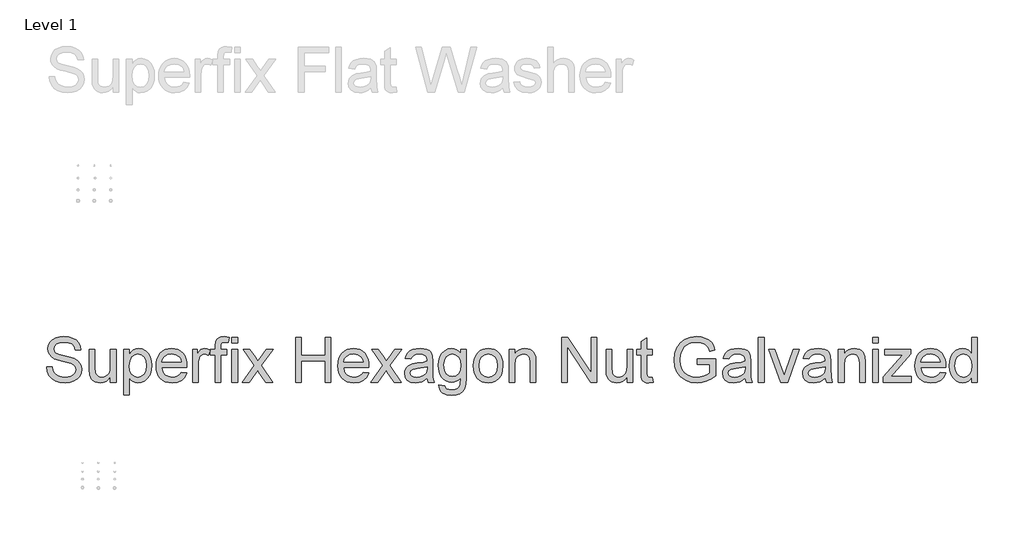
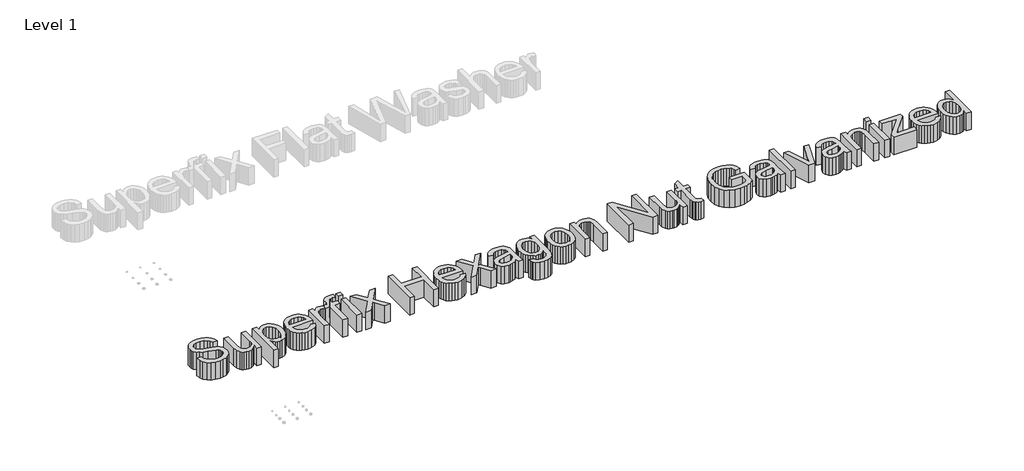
# One storey, part 17 of 32: 1 proxy.
"""IFC4 building model written with IfcOpenShell, lengths in millimetres."""

import ifcopenshell
import ifcopenshell.guid

model = None  # the IFC model being written
_history = None  # IfcOwnerHistory: only IFC2X3 demands one
_inside = {}  # id of a spatial element -> (the spatial element, [elements in it])
_under = {}  # id of a project, library or spatial element -> (it, [spatial elements below it])
_declared = {}  # id of a project -> (the project, [libraries it declares])
_typed = {}  # id of a type object -> (the type object, [elements of that type])
_made_of = {}  # id of a material, layer set ... -> (it, [elements and type objects made of it])


def new_model(schema):
    """Start an empty IFC model of exactly this schema.

    Asked for "IFC4X3", IfcOpenShell would pick the latest addendum, in which some entities
    have other attributes; the version numbers below select the first issue.
    IFC2X3 requires an IfcOwnerHistory on every rooted entity: one is made here for all.
    """
    global model, _history
    if schema == "IFC4X3":
        model = ifcopenshell.file(schema_version=(4, 3, 0, 0))
    else:
        model = ifcopenshell.file(schema=schema)
    _inside.clear()
    _under.clear()
    _declared.clear()
    _typed.clear()
    _made_of.clear()
    _history = None
    if model.schema == "IFC2X3":
        org = make("IfcOrganization", Name="unknown")
        user = make(
            "IfcPersonAndOrganization",
            ThePerson=make("IfcPerson", FamilyName="unknown"),
            TheOrganization=org,
        )
        app = make(
            "IfcApplication",
            ApplicationDeveloper=org,
            Version="unknown",
            ApplicationFullName="unknown",
            ApplicationIdentifier="unknown",
        )
        _history = make(
            "IfcOwnerHistory",
            OwningUser=user,
            OwningApplication=app,
            ChangeAction="ADDED",
            CreationDate=0,
        )
    return model


def make(cls, **values):
    """One entity of the class cls with the attributes given. An attribute that is None is left unset."""
    return model.create_entity(
        cls, **{name: value for name, value in values.items() if value is not None}
    )


def rooted(cls, **values):
    """An entity with a GlobalId (a new one), such as an element, a storey or a relation."""
    return make(cls, GlobalId=ifcopenshell.guid.new(), OwnerHistory=_history, **values)


def si_unit(unit_type, name, prefix=None):
    """IfcSIUnit, for example si_unit("LENGTHUNIT", "METRE", prefix="MILLI")."""
    return make("IfcSIUnit", UnitType=unit_type, Prefix=prefix, Name=name)


def assignment(units):
    """IfcUnitAssignment: the units of a project."""
    return None if units is None else make("IfcUnitAssignment", Units=units)


def point(xyz):
    """IfcCartesianPoint."""
    return None if xyz is None else make("IfcCartesianPoint", Coordinates=xyz)


def direction(xyz):
    """IfcDirection."""
    return None if xyz is None else make("IfcDirection", DirectionRatios=xyz)


def frame(location, z_axis=None, x_axis=None):
    """IfcAxis2Placement3D, a coordinate frame: its origin and axes. An axis left out is left unset."""
    return make(
        "IfcAxis2Placement3D",
        Location=point(location),
        Axis=direction(z_axis),
        RefDirection=direction(x_axis),
    )


def origin():
    """The frame at (0, 0, 0) with its axes left unset."""
    return frame((0.0, 0.0, 0.0))


def origin_with_axes():
    """The frame at (0, 0, 0) with the z axis (0, 0, 1) and the x axis (1, 0, 0) written out."""
    return frame((0.0, 0.0, 0.0), z_axis=(0.0, 0.0, 1.0), x_axis=(1.0, 0.0, 0.0))


def place(relative_to, where):
    """IfcLocalPlacement: puts the frame where relative to a parent placement (None: the world)."""
    return make(
        "IfcLocalPlacement", PlacementRelTo=relative_to, RelativePlacement=where
    )


def context(
    kind, dimensions, precision=None, world=None, true_north=None, identifier=None
):
    """IfcGeometricRepresentationContext, for example the 3D "Model" context."""
    return make(
        "IfcGeometricRepresentationContext",
        ContextIdentifier=identifier,
        ContextType=kind,
        CoordinateSpaceDimension=dimensions,
        Precision=precision,
        WorldCoordinateSystem=world,
        TrueNorth=true_north,
    )


def project(units=None, contexts=None):
    """IfcProject with its units and contexts."""
    return rooted(
        "IfcProject",
        Name="project",
        RepresentationContexts=contexts,
        UnitsInContext=assignment(units),
    )


def spatial(cls, under=None, at=None, **own):
    """A site, building, storey or space (cls), placed at a placement, below another one or the project."""
    s = rooted(cls, ObjectPlacement=at, **own)
    if under is not None:
        _under.setdefault(under.id(), (under, []))[1].append(s)
    return s


def polyline(points):
    """IfcPolyline through the points."""
    return make("IfcPolyline", Points=[point(p) for p in points])


def outline(outer, holes=None, kind="AREA"):
    """IfcArbitraryClosedProfileDef: a profile drawn as a closed curve; with holes, ...WithVoids."""
    if holes is None:
        return make("IfcArbitraryClosedProfileDef", ProfileType=kind, OuterCurve=outer)
    return make(
        "IfcArbitraryProfileDefWithVoids",
        ProfileType=kind,
        OuterCurve=outer,
        InnerCurves=holes,
    )


def extrude(swept, where, along, depth):
    """IfcExtrudedAreaSolid: the profile swept, set in the frame where, extruded along a direction by depth."""
    return make(
        "IfcExtrudedAreaSolid",
        SweptArea=swept,
        Position=where,
        ExtrudedDirection=direction(along),
        Depth=depth,
    )


def shape(context_of_items, identifier, shape_type, items):
    """IfcShapeRepresentation: the items that make up one representation, for example the "Body"."""
    return make(
        "IfcShapeRepresentation",
        ContextOfItems=context_of_items,
        RepresentationIdentifier=identifier,
        RepresentationType=shape_type,
        Items=items,
    )


def made_of(thing, what):
    """Note that an element or type object is made of a material, layer set ...; save() writes the relation."""
    if what is not None:
        _made_of.setdefault(what.id(), (what, []))[1].append(thing)
    return thing


def element(
    cls,
    number,
    at=None,
    inside=None,
    cuts=None,
    type_object=None,
    material=None,
    context=None,
    identifier="Body",
    shape_type=None,
    held_by="IfcProductDefinitionShape",
    body=None,
    shapes=None,
    **own,
):
    """One element of the class cls, such as IfcWall. Its Tag is "e" and its number.

    at: its placement. inside: the storey or other place that contains it. cuts: it is an
    opening in that element (IfcRelVoidsElement). A single representation is given by context,
    identifier, shape_type and body (its items); several are given by shapes. held_by: the class
    of the entity that holds the representations. save() writes the other relations.
    """
    e = rooted(cls, Tag="e%d" % number, ObjectPlacement=at, **own)
    if body is not None:
        shapes = [shape(context, identifier, shape_type, body)]
    if shapes is not None:
        e.Representation = make(held_by, Representations=shapes)
    if inside is not None:
        _inside.setdefault(inside.id(), (inside, []))[1].append(e)
    if cuts is not None:
        rooted(
            "IfcRelVoidsElement", RelatingBuildingElement=cuts, RelatedOpeningElement=e
        )
    if type_object is not None:
        _typed.setdefault(type_object.id(), (type_object, []))[1].append(e)
    return made_of(e, material)


def aggregate(whole, parts):
    """IfcRelAggregates: a whole, such as a stair, and the parts it consists of."""
    return rooted("IfcRelAggregates", RelatingObject=whole, RelatedObjects=parts)


def save(model, path):
    """Write the relations noted so far, then the file.

    IfcRelAggregates (storeys below a building ...), IfcRelContainedInSpatialStructure (elements
    in a storey), IfcRelDefinesByType, IfcRelAssociatesMaterial and IfcRelDeclares: one each for
    every whole, place, type object, material and project.
    """
    for whole, parts in _under.values():
        aggregate(whole, parts)
    for where, things in _inside.values():
        rooted(
            "IfcRelContainedInSpatialStructure",
            RelatedElements=things,
            RelatingStructure=where,
        )
    for kind, things in _typed.values():
        rooted("IfcRelDefinesByType", RelatedObjects=things, RelatingType=kind)
    for what, things in _made_of.values():
        rooted("IfcRelAssociatesMaterial", RelatedObjects=things, RelatingMaterial=what)
    for by, libraries in _declared.values():
        rooted("IfcRelDeclares", RelatingContext=by, RelatedDefinitions=libraries)
    model.write(path)


model = new_model("IFC4")

# Units and contexts
model_context = context("Model", 3, world=origin())
ifc_project = project(units=[si_unit("LENGTHUNIT", "METRE", prefix="MILLI")], contexts=[model_context])

# Site, building, storey
site = spatial("IfcSite", under=ifc_project)
building = spatial("IfcBuilding", under=site)
storey = spatial("IfcBuildingStorey", under=building, Name="Level 1", Elevation=0.0)

# Proxy
placement = place(None, origin())
element("IfcBuildingElementProxy", 1, Name="300mm Arial 2", ObjectType="300mm Arial 2", at=placement, inside=storey, context=model_context, shape_type="SweptSolid", body=[
    extrude(outline(polyline([(-40582.2677114, 10602.9664864), (-40544.5965951, 10602.9664864), (-40540.2739817, 10582.061592), (-40532.4564893, 10565.2585819), (-40520.2612011, 10551.9228596), (-40502.8052004, 10541.4198286), (-40481.4680447, 10534.6048147), (-40457.6292914, 10532.3331433), (-40436.6416236, 10534.0529917), (-40418.265918, 10539.2125366), (-40403.3758942, 10547.3795169), (-40392.8452721, 10558.1216712), (-40386.5820811, 10570.4549151), (-40384.4943508, 10583.3951643), (-40386.0578493, 10596.0043196), (-40390.7483447, 10606.9028238), (-40400.2764884, 10616.2010412), (-40416.3529316, 10624.0093365), (-40471.2041371, 10638.3935225), (-40507.2105873, 10647.9124692), (-40530.2491973, 10656.9715633), (-40549.001982, 10669.645098), (-40562.2917191, 10685.0041713), (-40570.210379, 10702.7176894), (-40572.8499323, 10722.4545584), (-40569.5849796, 10744.5182811), (-40559.7901215, 10765.0920817), (-40543.7228754, 10782.5296882), (-40521.6407586, 10795.1848289), (-40495.1348609, 10802.8827596), (-40465.7962717, 10805.4487365), (-40434.0112674, 10802.763198), (-40406.1993885, 10794.7065823), (-40383.3539166, 10781.4444364), (-40366.468133, 10763.1423071), (-40355.7811611, 10740.9406287), (-40351.532124, 10715.9798353), (-40389.2032403, 10715.9798353), (-40396.1194218, 10738.4574252), (-40410.5403961, 10754.6810212), (-40433.0731683, 10764.5034705), (-40464.3247438, 10767.7776202), (-40496.3120832, 10764.5402587), (-40518.2562442, 10754.828174), (-40530.9481731, 10740.5359585), (-40535.178816, 10723.5582044), (-40532.1805778, 10709.0820479), (-40523.185863, 10697.4385828), (-40501.9222837, 10687.0275223), (-40461.6759934, 10676.3957326), (-40420.1421161, 10666.2973719), (-40395.0157759, 10657.4865981), (-40373.5406644, 10643.819782), (-40358.5586701, 10626.9523925), (-40349.7570934, 10607.0683707), (-40346.8232345, 10584.3516574), (-40350.1985518, 10561.1291065), (-40360.3245037, 10539.286113), (-40376.787223, 10520.4873431), (-40399.1728424, 10506.3974627), (-40426.0926074, 10497.5958859), (-40456.1577635, 10494.662027), (-40493.0655246, 10497.8258122), (-40523.4433804, 10507.3171677), (-40547.6408186, 10523.1728817), (-40566.0073272, 10545.4297424), (-40577.7979452, 10572.5426454), (-40582.2677114, 10602.9664864)])), origin_with_axes(), (0.0, 0.0, 1.0), 150.0),
    extrude(outline(polyline([(-40153.7587634, 10499.3709166), (-40153.7587634, 10537.4099149), (-40167.3887913, 10518.7077139), (-40183.2628994, 10505.348999), (-40201.3810877, 10497.33377), (-40221.7433561, 10494.662027), (-40240.0914706, 10496.5382252), (-40257.1703923, 10502.1668197), (-40271.499396, 10510.6281056), (-40281.5977568, 10521.0023779), (-40292.8181576, 10548.7406803), (-40295.0254496, 10583.7630463), (-40295.0254496, 10720.6887249), (-40257.3543333, 10720.6887249), (-40257.3543333, 10601.4949584), (-40255.0734649, 10563.0880781), (-40249.5828261, 10550.2765876), (-40240.1742441, 10540.5369118), (-40227.4731182, 10534.3840855), (-40212.1048479, 10532.3331433), (-40195.8536607, 10534.4300707), (-40180.6509373, 10540.7208528), (-40168.1153583, 10550.6260755), (-40159.8656045, 10563.5663247), (-40155.2854737, 10581.2890398), (-40153.7587634, 10605.5416604), (-40153.7587634, 10720.6887249), (-40116.0876471, 10720.6887249), (-40116.0876471, 10499.3709166), (-40153.7587634, 10499.3709166)])), origin_with_axes(), (0.0, 0.0, 1.0), 150.0),
    extrude(outline(polyline([(-40064.2898622, 10414.6109049), (-40064.2898622, 10720.6887249), (-40026.6187459, 10720.6887249), (-40026.6187459, 10683.7533725), (-40014.3314873, 10701.9727284), (-40000.5727006, 10714.9865539), (-39984.5330456, 10722.7948493), (-39965.4031819, 10725.3976144), (-39939.9273537, 10721.7555826), (-39917.6520989, 10710.8294874), (-39899.5155166, 10693.2815162), (-39886.4557057, 10669.7738567), (-39878.5646369, 10642.0171602), (-39875.9342807, 10611.7220779), (-39878.9049278, 10579.5048122), (-39887.8168691, 10550.6904549), (-39902.3849961, 10526.741337), (-39922.3242003, 10509.1197894), (-39945.5467512, 10498.2764676), (-39969.9649186, 10494.662027), (-39987.2829636, 10497.0808511), (-40002.7432044, 10504.3373235), (-40015.9777592, 10515.2910099), (-40026.6187459, 10528.8014762), (-40026.6187459, 10414.6109049), (-40064.2898622, 10414.6109049)]), holes=[polyline([(-40026.6187459, 10608.2639871), (-40022.5444528, 10574.49242), (-40010.3215735, 10550.8743959), (-39992.2861587, 10536.9684565), (-39970.774259, 10532.3331433), (-39948.9128715, 10537.1340034), (-39930.4176042, 10551.5365835), (-39917.8084488, 10576.0191303), (-39913.605397, 10611.0598903), (-39917.7072812, 10644.6475165), (-39930.012934, 10668.5966343), (-39948.0207576, 10682.9440322), (-39969.2291546, 10687.7264981), (-39990.5203251, 10682.6405295), (-40009.2179275, 10667.3826238), (-40022.2685413, 10642.4310274), (-40026.6187459, 10608.2639871)])]), origin_with_axes(), (0.0, 0.0, 1.0), 150.0),
    extrude(outline(polyline([(-39678.6023785, 10565.2953701), (-39641.6670261, 10560.5864806), (-39654.9751573, 10532.7562076), (-39676.2111455, 10511.9524808), (-39704.8967441, 10498.9846405), (-39740.5537064, 10494.662027), (-39763.9280087, 10496.5267289), (-39784.7547282, 10502.1208345), (-39803.0338648, 10511.4443438), (-39818.7654186, 10524.4972568), (-39831.4159607, 10540.9162901), (-39840.4520622, 10560.3381602), (-39845.8737231, 10582.7628671), (-39847.6809434, 10608.1904107), (-39845.855329, 10634.4801778), (-39840.3784858, 10657.652145), (-39831.2504138, 10677.7063122), (-39818.471113, 10694.6426796), (-39802.7809459, 10708.0979636), (-39784.9202751, 10717.7088807), (-39764.8891004, 10723.475431), (-39742.687422, 10725.3976144), (-39721.2008142, 10723.4800295), (-39701.7697471, 10717.7272748), (-39684.3942206, 10708.1393503), (-39669.0742348, 10694.716256), (-39656.5685462, 10677.8166768), (-39647.6359115, 10657.7992978), (-39642.2763307, 10634.6641188), (-39640.4898038, 10608.4111399), (-39640.710533, 10598.2575969), (-39810.0098271, 10598.2575969), (-39803.4891188, 10570.0594419), (-39788.3415776, 10549.3292915), (-39766.4801901, 10536.5821804), (-39739.8179425, 10532.3331433), (-39719.7683737, 10534.301312), (-39702.8825901, 10540.205818), (-39689.1605917, 10550.4145434), (-39678.6023785, 10565.2953701)]), holes=[polyline([(-39810.0098271, 10635.9287132), (-39678.1609201, 10635.9287132), (-39683.2560857, 10655.8311291), (-39693.2440819, 10670.0681623), (-39715.206637, 10683.3119142), (-39742.8345748, 10687.7264981), (-39768.2276295, 10684.204028), (-39789.2244944, 10673.6366177), (-39803.8202126, 10657.1647013), (-39810.0098271, 10635.9287132)])]), origin_with_axes(), (0.0, 0.0, 1.0), 150.0),
    extrude(outline(polyline([(-39602.8186874, 10499.3709166), (-39602.8186874, 10720.6887249), (-39569.8564607, 10720.6887249), (-39569.8564607, 10687.9472273), (-39557.6795666, 10706.9299382), (-39546.4591658, 10718.1135509), (-39535.2019767, 10723.5765985), (-39522.9147181, 10725.3976144), (-39504.1527363, 10722.4913466), (-39485.096449, 10713.7725434), (-39497.6780132, 10680.0009762), (-39510.9217651, 10685.7951176), (-39524.1655169, 10687.7264981), (-39535.4135089, 10685.868694), (-39545.4658844, 10680.2952818), (-39553.5868794, 10671.4293257), (-39559.04073, 10659.6938901), (-39563.6208609, 10638.6510399), (-39565.1475711, 10615.6952034), (-39565.1475711, 10499.3709166), (-39602.8186874, 10499.3709166)])), origin_with_axes(), (0.0, 0.0, 1.0), 150.0),
    extrude(outline(polyline([(-39452.1342222, 10499.3709166), (-39452.1342222, 10683.0176086), (-39485.096449, 10683.0176086), (-39485.096449, 10720.6887249), (-39452.1342222, 10720.6887249), (-39452.1342222, 10742.9823738), (-39448.1610967, 10774.3994962), (-39440.5827276, 10786.9258781), (-39428.8840801, 10796.8402979), (-39412.5133313, 10803.2966269), (-39390.9186582, 10805.4487365), (-39356.5584799, 10801.3284582), (-39362.0767098, 10766.0117867), (-39383.7817475, 10767.7776202), (-39398.1015542, 10766.2141218), (-39407.5101362, 10761.5236263), (-39412.7248635, 10752.5656997), (-39414.4631059, 10738.1999078), (-39414.4631059, 10720.6887249), (-39372.0831001, 10720.6887249), (-39372.0831001, 10683.0176086), (-39414.4631059, 10683.0176086), (-39414.4631059, 10499.3709166), (-39452.1342222, 10499.3709166)])), origin_with_axes(), (0.0, 0.0, 1.0), 150.0),
    extrude(outline(polyline([(-39339.1208733, 10499.3709166), (-39339.1208733, 10720.6887249), (-39301.449757, 10720.6887249), (-39301.449757, 10499.3709166), (-39339.1208733, 10499.3709166)])), origin_with_axes(), (0.0, 0.0, 1.0), 150.0),
    extrude(outline(polyline([(-39339.1208733, 10763.0687307), (-39339.1208733, 10800.739847), (-39301.449757, 10800.739847), (-39301.449757, 10763.0687307), (-39339.1208733, 10763.0687307)])), origin_with_axes(), (0.0, 0.0, 1.0), 150.0),
    extrude(outline(polyline([(-39268.4875302, 10499.3709166), (-39187.9949497, 10610.6184319), (-39263.7786407, 10720.6887249), (-39218.4555789, 10720.6887249), (-39181.8881086, 10667.7137176), (-39164.818384, 10642.6977419), (-39150.0295278, 10663.1519808), (-39108.3852859, 10720.6887249), (-39063.0622241, 10720.6887249), (-39142.6718879, 10610.6184319), (-39066.0052801, 10499.3709166), (-39111.3283419, 10499.3709166), (-39157.4607441, 10566.2518633), (-39165.92203, 10578.4655455), (-39223.1644684, 10499.3709166), (-39268.4875302, 10499.3709166)])), origin_with_axes(), (0.0, 0.0, 1.0), 150.0),
    extrude(outline(polyline([(-38910.6119253, 10499.3709166), (-38910.6119253, 10800.739847), (-38872.940809, 10800.739847), (-38872.940809, 10678.308719), (-38712.8385647, 10678.308719), (-38712.8385647, 10800.739847), (-38675.1674484, 10800.739847), (-38675.1674484, 10499.3709166), (-38712.8385647, 10499.3709166), (-38712.8385647, 10640.6376027), (-38872.940809, 10640.6376027), (-38872.940809, 10499.3709166), (-38910.6119253, 10499.3709166)])), origin_with_axes(), (0.0, 0.0, 1.0), 150.0),
    extrude(outline(polyline([(-38458.999988, 10565.2953701), (-38422.0646357, 10560.5864806), (-38435.3727669, 10532.7562076), (-38456.6087551, 10511.9524808), (-38485.2943537, 10498.9846405), (-38520.951316, 10494.662027), (-38544.3256183, 10496.5267289), (-38565.1523378, 10502.1208345), (-38583.4314744, 10511.4443438), (-38599.1630282, 10524.4972568), (-38611.8135703, 10540.9162901), (-38620.8496718, 10560.3381602), (-38626.2713327, 10582.7628671), (-38628.078553, 10608.1904107), (-38626.2529386, 10634.4801778), (-38620.7760954, 10657.652145), (-38611.6480234, 10677.7063122), (-38598.8687226, 10694.6426796), (-38583.1785555, 10708.0979636), (-38565.3178847, 10717.7088807), (-38545.28671, 10723.475431), (-38523.0850316, 10725.3976144), (-38501.5984238, 10723.4800295), (-38482.1673567, 10717.7272748), (-38464.7918302, 10708.1393503), (-38449.4718444, 10694.716256), (-38436.9661558, 10677.8166768), (-38428.0335211, 10657.7992978), (-38422.6739403, 10634.6641188), (-38420.8874133, 10608.4111399), (-38421.1081425, 10598.2575969), (-38590.4074367, 10598.2575969), (-38583.8867284, 10570.0594419), (-38568.7391872, 10549.3292915), (-38546.8777996, 10536.5821804), (-38520.215552, 10532.3331433), (-38500.1659833, 10534.301312), (-38483.2801997, 10540.205818), (-38469.5582013, 10550.4145434), (-38458.999988, 10565.2953701)]), holes=[polyline([(-38590.4074367, 10635.9287132), (-38458.5585297, 10635.9287132), (-38463.6536953, 10655.8311291), (-38473.6416915, 10670.0681623), (-38495.6042466, 10683.3119142), (-38523.2321844, 10687.7264981), (-38548.6252391, 10684.204028), (-38569.622104, 10673.6366177), (-38584.2178222, 10657.1647013), (-38590.4074367, 10635.9287132)])]), origin_with_axes(), (0.0, 0.0, 1.0), 150.0),
    extrude(outline(polyline([(-38406.7607447, 10499.3709166), (-38326.2681642, 10610.6184319), (-38402.0518552, 10720.6887249), (-38356.7287934, 10720.6887249), (-38320.1613231, 10667.7137176), (-38303.0915985, 10642.6977419), (-38288.3027423, 10663.1519808), (-38246.6585004, 10720.6887249), (-38201.3354386, 10720.6887249), (-38280.9451024, 10610.6184319), (-38204.2784946, 10499.3709166), (-38249.6015564, 10499.3709166), (-38295.7339586, 10566.2518633), (-38304.1952445, 10578.4655455), (-38361.4376829, 10499.3709166), (-38406.7607447, 10499.3709166)])), origin_with_axes(), (0.0, 0.0, 1.0), 150.0),
    extrude(outline(polyline([(-38030.0495817, 10527.6242538), (-38048.0482083, 10512.1916041), (-38066.5802638, 10502.0932433), (-38086.0688125, 10496.5198311), (-38106.9369187, 10494.662027), (-38138.4184204, 10499.1317933), (-38161.6409713, 10512.541092), (-38175.960778, 10532.9033604), (-38180.7340469, 10558.2320358), (-38178.9314251, 10573.8486265), (-38173.5235598, 10588.0304774), (-38165.1818355, 10600.1705832), (-38154.577637, 10609.6619387), (-38128.200498, 10622.0227738), (-38095.6061532, 10627.6881565), (-38057.0889083, 10633.6478448), (-38030.2703109, 10640.6376027), (-38030.0495817, 10649.0253122), (-38032.6431497, 10665.8375194), (-38040.4238539, 10676.837191), (-38057.8246723, 10685.0041713), (-38082.0680958, 10687.7264981), (-38104.5088975, 10685.9146793), (-38120.1806705, 10680.4792228), (-38130.8676424, 10670.4268473), (-38138.354041, 10654.7642713), (-38176.0251574, 10659.4731609), (-38169.4860549, 10680.0745526), (-38159.727985, 10696.2613604), (-38145.8404397, 10708.6405895), (-38126.912911, 10717.8192453), (-38103.7639365, 10723.5030221), (-38077.2120535, 10725.3976144), (-38051.7454223, 10723.7237513), (-38031.5578978, 10718.7021621), (-38016.3367803, 10711.1513841), (-38005.76937, 10701.8899549), (-37998.761218, 10690.4396278), (-37994.2178753, 10676.3221562), (-37992.3784654, 10643.3599295), (-37992.3784654, 10596.4917633), (-37990.465479, 10531.0455563), (-37982.9606863, 10499.3709166), (-38020.6318026, 10499.3709166), (-38030.0495817, 10527.6242538)]), holes=[polyline([(-38030.0495817, 10602.9664864), (-38090.8236873, 10591.4149918), (-38123.234091, 10585.3081506), (-38137.9125827, 10575.3753368), (-38143.0629306, 10560.8807862), (-38140.2578304, 10549.6787794), (-38131.8425297, 10540.5001236), (-38118.0009697, 10534.3748884), (-38098.9170912, 10532.3331433), (-38078.6835814, 10534.5864206), (-38060.8045165, 10541.3462522), (-38046.3099659, 10551.3066572), (-38036.2299992, 10563.1616545), (-38031.7602329, 10575.3753368), (-38030.2703109, 10592.2979085), (-38030.0495817, 10602.9664864)])]), origin_with_axes(), (0.0, 0.0, 1.0), 150.0),
    extrude(outline(polyline([(-37949.9984595, 10480.5353584), (-37912.3273432, 10475.8264689), (-37908.1702767, 10464.054245), (-37900.113661, 10455.9608411), (-37884.2763411, 10449.670059), (-37863.5461907, 10447.5731316), (-37841.4364827, 10449.9459705), (-37824.9921576, 10457.0644871), (-37813.5878157, 10468.468829), (-37806.5980578, 10483.6991436), (-37804.0228838, 10527.6242538), (-37816.5584628, 10515.2634188), (-37830.5471757, 10506.4342509), (-37845.9890224, 10501.1367501), (-37862.8840031, 10499.3709166), (-37883.5382778, 10501.4264572), (-37901.7231447, 10507.5930792), (-37917.4386037, 10517.8707824), (-37930.6846548, 10532.2595669), (-37941.1945835, 10549.5224296), (-37948.7016755, 10568.4223671), (-37953.2059307, 10588.9593794), (-37954.7073491, 10611.1334667), (-37952.0126134, 10641.5481106), (-37943.9284066, 10669.5163393), (-37930.7398371, 10693.2171369), (-37912.7320134, 10710.8294874), (-37890.5211379, 10721.7555826), (-37864.723413, 10725.3976144), (-37847.106464, 10723.3374752), (-37831.1173928, 10717.1570577), (-37816.7561994, 10706.8563618), (-37804.0228838, 10692.4353876), (-37804.0228838, 10720.6887249), (-37766.3517675, 10720.6887249), (-37766.3517675, 10529.6108166), (-37768.9269415, 10485.4925683), (-37776.6524634, 10456.4390877), (-37789.9605946, 10437.1712682), (-37809.2835964, 10422.4100032), (-37834.1984045, 10413.0290123), (-37864.2819546, 10409.9020153), (-37899.3319117, 10414.3074022), (-37926.9322584, 10427.5235629), (-37937.327224, 10437.4448805), (-37944.6365794, 10449.5872856), (-37948.8603246, 10463.9507782), (-37949.9984595, 10480.5353584)]), holes=[polyline([(-37917.0362328, 10613.7086407), (-37913.017122, 10579.1553243), (-37900.9597896, 10555.3993444), (-37882.8324042, 10541.6313608), (-37860.6031347, 10537.0420329), (-37838.539412, 10541.6037696), (-37820.3200562, 10555.2889798), (-37808.0971769, 10578.741457), (-37804.0228838, 10612.6049947), (-37808.2167386, 10645.2637188), (-37820.7983028, 10668.7805753), (-37839.2843731, 10682.9900174), (-37861.1917459, 10687.7264981), (-37882.7036456, 10683.0635938), (-37900.7390604, 10669.0748809), (-37912.9619397, 10645.9075123), (-37917.0362328, 10613.7086407)])]), origin_with_axes(), (0.0, 0.0, 1.0), 150.0),
    extrude(outline(polyline([(-37719.2628721, 10610.0298207), (-37717.2257256, 10638.6924267), (-37711.114286, 10663.3911041), (-37700.9285532, 10684.1258531), (-37686.6685274, 10700.8966735), (-37672.3119325, 10711.6158352), (-37656.4654156, 10719.2723792), (-37639.1289765, 10723.8663056), (-37620.3026154, 10725.3976144), (-37599.519582, 10723.5329125), (-37580.7277098, 10717.9388069), (-37563.9269989, 10708.6152976), (-37549.1174494, 10695.5623846), (-37537.0302266, 10679.2215262), (-37528.396496, 10660.0341809), (-37523.2162577, 10638.0003487), (-37521.4895115, 10613.1200295), (-37524.5429321, 10575.0626371), (-37533.7031938, 10546.0919299), (-37548.7035821, 10524.3960893), (-37569.2773827, 10508.1632962), (-37593.7139442, 10498.0373443), (-37620.3026154, 10494.662027), (-37641.3891516, 10496.5198311), (-37660.3557677, 10502.0932433), (-37677.2024638, 10511.3822637), (-37691.9292399, 10524.3868922), (-37703.887704, 10540.8863997), (-37712.4294641, 10560.660057), (-37717.5545201, 10583.707864), (-37719.2628721, 10610.0298207)]), holes=[polyline([(-37681.5917558, 10610.1033971), (-37677.2323542, 10576.0099332), (-37664.1541493, 10551.7205245), (-37644.4724625, 10537.1799886), (-37620.3026154, 10532.3331433), (-37596.243133, 10537.2075798), (-37576.5982344, 10551.8308891), (-37563.5200295, 10576.4421946), (-37559.1606278, 10611.2806195), (-37563.5476206, 10644.380802), (-37576.708599, 10668.3391169), (-37596.3810887, 10682.8796528), (-37620.3026154, 10687.7264981), (-37644.4724625, 10682.8980469), (-37664.1541493, 10668.4126933), (-37677.2323542, 10644.1784669), (-37681.5917558, 10610.1033971)])]), origin_with_axes(), (0.0, 0.0, 1.0), 150.0),
    extrude(outline(polyline([(-37479.1095057, 10499.3709166), (-37479.1095057, 10720.6887249), (-37441.4383894, 10720.6887249), (-37441.4383894, 10689.7866373), (-37428.3509874, 10705.3664398), (-37412.6332292, 10716.4948701), (-37394.2851147, 10723.1719283), (-37373.3066439, 10725.3976144), (-37354.7378002, 10723.6041897), (-37337.7324549, 10718.2239155), (-37323.550604, 10709.9281765), (-37313.4522433, 10699.3883573), (-37302.158266, 10671.6868431), (-37300.1717032, 10635.2665256), (-37300.1717032, 10499.3709166), (-37337.8428195, 10499.3709166), (-37337.8428195, 10630.189754), (-37342.1838271, 10663.5198628), (-37348.1895007, 10673.4434796), (-37357.5245063, 10681.1414104), (-37369.4898682, 10686.0802262), (-37383.3866105, 10687.7264981), (-37405.4503332, 10684.029284), (-37424.2583002, 10672.9376419), (-37431.7745892, 10663.8831463), (-37437.1433671, 10651.5085157), (-37441.4383894, 10616.7988494), (-37441.4383894, 10499.3709166), (-37479.1095057, 10499.3709166)])), origin_with_axes(), (0.0, 0.0, 1.0), 150.0),
    extrude(outline(polyline([(-37125.9427903, 10499.3709166), (-37125.9427903, 10800.739847), (-37085.6229237, 10800.739847), (-36928.1694297, 10561.9844321), (-36928.1694297, 10800.739847), (-36890.4983134, 10800.739847), (-36890.4983134, 10499.3709166), (-36930.8181801, 10499.3709166), (-37088.271674, 10738.1999078), (-37088.271674, 10499.3709166), (-37125.9427903, 10499.3709166)])), origin_with_axes(), (0.0, 0.0, 1.0), 150.0),
    extrude(outline(polyline([(-36688.0160633, 10499.3709166), (-36688.0160633, 10537.4099149), (-36701.6460912, 10518.7077139), (-36717.5201993, 10505.348999), (-36735.6383875, 10497.33377), (-36756.000656, 10494.662027), (-36774.3487705, 10496.5382252), (-36791.4276921, 10502.1668197), (-36805.7566958, 10510.6281056), (-36815.8550566, 10521.0023779), (-36827.0754574, 10548.7406803), (-36829.2827494, 10583.7630463), (-36829.2827494, 10720.6887249), (-36791.6116331, 10720.6887249), (-36791.6116331, 10601.4949584), (-36789.3307647, 10563.0880781), (-36783.840126, 10550.2765876), (-36774.4315439, 10540.5369118), (-36761.730418, 10534.3840855), (-36746.3621477, 10532.3331433), (-36730.1109606, 10534.4300707), (-36714.9082371, 10540.7208528), (-36702.3726581, 10550.6260755), (-36694.1229044, 10563.5663247), (-36689.5427735, 10581.2890398), (-36688.0160633, 10605.5416604), (-36688.0160633, 10720.6887249), (-36650.344947, 10720.6887249), (-36650.344947, 10499.3709166), (-36688.0160633, 10499.3709166)])), origin_with_axes(), (0.0, 0.0, 1.0), 150.0),
    extrude(outline(polyline([(-36518.4960399, 10530.788039), (-36513.7871503, 10498.2672706), (-36541.9669112, 10494.662027), (-36560.0483112, 10496.2255255), (-36573.5311864, 10500.9160209), (-36583.05933, 10508.1449021), (-36589.2765358, 10517.3235579), (-36592.6978383, 10533.0873014), (-36593.8382725, 10560.0714458), (-36593.8382725, 10683.0176086), (-36622.0916097, 10683.0176086), (-36622.0916097, 10720.6887249), (-36593.8382725, 10720.6887249), (-36593.8382725, 10774.4730726), (-36556.1671562, 10796.6195687), (-36556.1671562, 10720.6887249), (-36518.4960399, 10720.6887249), (-36518.4960399, 10683.0176086), (-36556.1671562, 10683.0176086), (-36556.1671562, 10561.1750918), (-36554.1805934, 10541.7509224), (-36547.7426585, 10534.8715291), (-36534.9035769, 10532.3331433), (-36518.4960399, 10530.788039)])), origin_with_axes(), (0.0, 0.0, 1.0), 150.0),
    extrude(outline(polyline([(-36217.1271094, 10617.093155), (-36217.1271094, 10654.7642713), (-36094.6959814, 10654.7642713), (-36094.6959814, 10542.1188044), (-36124.4484378, 10521.4254422), (-36155.1389933, 10506.5814037), (-36186.6940714, 10497.6418712), (-36219.0400958, 10494.662027), (-36261.30054, 10499.3985077), (-36299.4958882, 10513.6079498), (-36331.2257102, 10536.7937125), (-36354.0895762, 10568.4591553), (-36367.9127422, 10606.4429713), (-36372.5204642, 10648.5838538), (-36367.9311363, 10691.028239), (-36354.1631526, 10730.5111741), (-36331.7867303, 10763.6297507), (-36301.3720863, 10786.9810604), (-36264.3263694, 10800.8318175), (-36222.0567282, 10805.4487365), (-36191.0258819, 10802.772395), (-36163.1220325, 10794.7433705), (-36139.6235701, 10781.9410771), (-36121.8088845, 10764.9449289), (-36108.629512, 10742.9363885), (-36099.036989, 10715.0969185), (-36133.7650493, 10705.3112575), (-36141.5181624, 10725.1676882), (-36150.9451385, 10740.1496824), (-36163.4163381, 10751.4436597), (-36180.3021217, 10760.2360393), (-36200.4344639, 10765.892225), (-36222.6453394, 10767.7776202), (-36248.6453994, 10765.7450722), (-36270.8746689, 10759.6474281), (-36289.2503746, 10750.2480432), (-36303.6897429, 10738.3102724), (-36323.077124, 10709.284383), (-36331.9062919, 10680.8471048), (-36334.8493479, 10650.1289582), (-36331.3084837, 10614.1041138), (-36320.6858911, 10584.462022), (-36303.3034668, 10561.414215), (-36279.4831076, 10545.172225), (-36251.6068494, 10535.5429137), (-36222.0567282, 10532.3331433), (-36195.9646977, 10534.7519674), (-36170.5164606, 10542.0084398), (-36148.4159498, 10552.005633), (-36132.3670977, 10562.6466197), (-36132.3670977, 10617.093155), (-36217.1271094, 10617.093155)])), origin_with_axes(), (0.0, 0.0, 1.0), 150.0),
    extrude(outline(polyline([(-35896.9226208, 10527.6242538), (-35914.9212475, 10512.1916041), (-35933.453303, 10502.0932433), (-35952.9418517, 10496.5198311), (-35973.8099578, 10494.662027), (-36005.2914596, 10499.1317933), (-36028.5140105, 10512.541092), (-36042.8338172, 10532.9033604), (-36047.6070861, 10558.2320358), (-36045.8044643, 10573.8486265), (-36040.396599, 10588.0304774), (-36032.0548747, 10600.1705832), (-36021.4506762, 10609.6619387), (-35995.0735371, 10622.0227738), (-35962.4791924, 10627.6881565), (-35923.9619475, 10633.6478448), (-35897.14335, 10640.6376027), (-35896.9226208, 10649.0253122), (-35899.5161889, 10665.8375194), (-35907.2968931, 10676.837191), (-35924.6977115, 10685.0041713), (-35948.941135, 10687.7264981), (-35971.3819367, 10685.9146793), (-35987.0537097, 10680.4792228), (-35997.7406816, 10670.4268473), (-36005.2270802, 10654.7642713), (-36042.8981965, 10659.4731609), (-36036.3590941, 10680.0745526), (-36026.6010241, 10696.2613604), (-36012.7134788, 10708.6405895), (-35993.7859502, 10717.8192453), (-35970.6369756, 10723.5030221), (-35944.0850926, 10725.3976144), (-35918.6184615, 10723.7237513), (-35898.430937, 10718.7021621), (-35883.2098195, 10711.1513841), (-35872.6424092, 10701.8899549), (-35865.6342571, 10690.4396278), (-35861.0909145, 10676.3221562), (-35859.2515045, 10643.3599295), (-35859.2515045, 10596.4917633), (-35857.3385182, 10531.0455563), (-35849.8337255, 10499.3709166), (-35887.5048418, 10499.3709166), (-35896.9226208, 10527.6242538)]), holes=[polyline([(-35896.9226208, 10602.9664864), (-35957.6967264, 10591.4149918), (-35990.1071302, 10585.3081506), (-36004.7856218, 10575.3753368), (-36009.9359698, 10560.8807862), (-36007.1308695, 10549.6787794), (-35998.7155689, 10540.5001236), (-35984.8740088, 10534.3748884), (-35965.7901303, 10532.3331433), (-35945.5566206, 10534.5864206), (-35927.6775556, 10541.3462522), (-35913.183005, 10551.3066572), (-35903.1030384, 10563.1616545), (-35898.6332721, 10575.3753368), (-35897.14335, 10592.2979085), (-35896.9226208, 10602.9664864)])]), origin_with_axes(), (0.0, 0.0, 1.0), 150.0),
    extrude(outline(polyline([(-35807.4537196, 10499.3709166), (-35807.4537196, 10800.739847), (-35769.7826033, 10800.739847), (-35769.7826033, 10499.3709166), (-35807.4537196, 10499.3709166)])), origin_with_axes(), (0.0, 0.0, 1.0), 150.0),
    extrude(outline(polyline([(-35658.9765464, 10499.3709166), (-35736.8203765, 10720.6887249), (-35696.9419683, 10720.6887249), (-35649.7794965, 10588.1040538), (-35635.5792515, 10543.516756), (-35621.673312, 10585.6024562), (-35574.2165347, 10720.6887249), (-35534.3381264, 10720.6887249), (-35611.2254634, 10499.3709166), (-35658.9765464, 10499.3709166)])), origin_with_axes(), (0.0, 0.0, 1.0), 150.0),
    extrude(outline(polyline([(-35360.1092135, 10527.6242538), (-35378.1078401, 10512.1916041), (-35396.6398956, 10502.0932433), (-35416.1284443, 10496.5198311), (-35436.9965505, 10494.662027), (-35468.4780522, 10499.1317933), (-35491.7006031, 10512.541092), (-35506.0204098, 10532.9033604), (-35510.7936787, 10558.2320358), (-35508.9910569, 10573.8486265), (-35503.5831916, 10588.0304774), (-35495.2414674, 10600.1705832), (-35484.6372688, 10609.6619387), (-35458.2601298, 10622.0227738), (-35425.665785, 10627.6881565), (-35387.1485401, 10633.6478448), (-35360.3299427, 10640.6376027), (-35360.1092135, 10649.0253122), (-35362.7027815, 10665.8375194), (-35370.4834857, 10676.837191), (-35387.8843041, 10685.0041713), (-35412.1277276, 10687.7264981), (-35434.5685293, 10685.9146793), (-35450.2403023, 10680.4792228), (-35460.9272743, 10670.4268473), (-35468.4136729, 10654.7642713), (-35506.0847892, 10659.4731609), (-35499.5456867, 10680.0745526), (-35489.7876168, 10696.2613604), (-35475.9000715, 10708.6405895), (-35456.9725428, 10717.8192453), (-35433.8235683, 10723.5030221), (-35407.2716853, 10725.3976144), (-35381.8050541, 10723.7237513), (-35361.6175297, 10718.7021621), (-35346.3964121, 10711.1513841), (-35335.8290018, 10701.8899549), (-35328.8208498, 10690.4396278), (-35324.2775071, 10676.3221562), (-35322.4380972, 10643.3599295), (-35322.4380972, 10596.4917633), (-35320.5251108, 10531.0455563), (-35313.0203181, 10499.3709166), (-35350.6914344, 10499.3709166), (-35360.1092135, 10527.6242538)]), holes=[polyline([(-35360.1092135, 10602.9664864), (-35420.8833191, 10591.4149918), (-35453.2937229, 10585.3081506), (-35467.9722145, 10575.3753368), (-35473.1225624, 10560.8807862), (-35470.3174622, 10549.6787794), (-35461.9021615, 10540.5001236), (-35448.0606015, 10534.3748884), (-35428.976723, 10532.3331433), (-35408.7432132, 10534.5864206), (-35390.8641483, 10541.3462522), (-35376.3695977, 10551.3066572), (-35366.289631, 10563.1616545), (-35361.8198648, 10575.3753368), (-35360.3299427, 10592.2979085), (-35360.1092135, 10602.9664864)])]), origin_with_axes(), (0.0, 0.0, 1.0), 150.0),
    extrude(outline(polyline([(-35270.6403122, 10499.3709166), (-35270.6403122, 10720.6887249), (-35232.9691959, 10720.6887249), (-35232.9691959, 10689.7866373), (-35219.881794, 10705.3664398), (-35204.1640357, 10716.4948701), (-35185.8159212, 10723.1719283), (-35164.8374504, 10725.3976144), (-35146.2686067, 10723.6041897), (-35129.2632615, 10718.2239155), (-35115.0814106, 10709.9281765), (-35104.9830498, 10699.3883573), (-35093.6890726, 10671.6868431), (-35091.7025098, 10635.2665256), (-35091.7025098, 10499.3709166), (-35129.3736261, 10499.3709166), (-35129.3736261, 10630.189754), (-35133.7146336, 10663.5198628), (-35139.7203072, 10673.4434796), (-35149.0553128, 10681.1414104), (-35161.0206747, 10686.0802262), (-35174.9174171, 10687.7264981), (-35196.9811398, 10684.029284), (-35215.7891068, 10672.9376419), (-35223.3053958, 10663.8831463), (-35228.6741736, 10651.5085157), (-35232.9691959, 10616.7988494), (-35232.9691959, 10499.3709166), (-35270.6403122, 10499.3709166)])), origin_with_axes(), (0.0, 0.0, 1.0), 150.0),
    extrude(outline(polyline([(-35039.9047249, 10763.0687307), (-35039.9047249, 10800.739847), (-35002.2336086, 10800.739847), (-35002.2336086, 10763.0687307), (-35039.9047249, 10763.0687307)])), origin_with_axes(), (0.0, 0.0, 1.0), 150.0),
    extrude(outline(polyline([(-35039.9047249, 10499.3709166), (-35039.9047249, 10720.6887249), (-35002.2336086, 10720.6887249), (-35002.2336086, 10499.3709166), (-35039.9047249, 10499.3709166)])), origin_with_axes(), (0.0, 0.0, 1.0), 150.0),
    extrude(outline(polyline([(-34969.2713818, 10499.3709166), (-34969.2713818, 10534.8347409), (-34839.2618847, 10683.0176086), (-34877.7423414, 10683.0176086), (-34959.8536027, 10683.0176086), (-34959.8536027, 10720.6887249), (-34785.6246898, 10720.6887249), (-34785.6246898, 10688.6829913), (-34900.9189071, 10557.2019662), (-34918.5772429, 10537.0420329), (-34875.0200146, 10537.0420329), (-34780.9158003, 10537.0420329), (-34780.9158003, 10499.3709166), (-34969.2713818, 10499.3709166)])), origin_with_axes(), (0.0, 0.0, 1.0), 150.0),
    extrude(outline(polyline([(-34588.2927876, 10565.2953701), (-34551.3574353, 10560.5864806), (-34564.6655665, 10532.7562076), (-34585.9015546, 10511.9524808), (-34614.5871532, 10498.9846405), (-34650.2441156, 10494.662027), (-34673.6184178, 10496.5267289), (-34694.4451373, 10502.1208345), (-34712.7242739, 10511.4443438), (-34728.4558278, 10524.4972568), (-34741.1063699, 10540.9162901), (-34750.1424714, 10560.3381602), (-34755.5641323, 10582.7628671), (-34757.3713526, 10608.1904107), (-34755.5457382, 10634.4801778), (-34750.068895, 10657.652145), (-34740.940823, 10677.7063122), (-34728.1615222, 10694.6426796), (-34712.4713551, 10708.0979636), (-34694.6106842, 10717.7088807), (-34674.5795096, 10723.475431), (-34652.3778312, 10725.3976144), (-34630.8912234, 10723.4800295), (-34611.4601562, 10717.7272748), (-34594.0846298, 10708.1393503), (-34578.7646439, 10694.716256), (-34566.2589553, 10677.8166768), (-34557.3263206, 10657.7992978), (-34551.9667398, 10634.6641188), (-34550.1802129, 10608.4111399), (-34550.4009421, 10598.2575969), (-34719.7002363, 10598.2575969), (-34713.1795279, 10570.0594419), (-34698.0319868, 10549.3292915), (-34676.1705992, 10536.5821804), (-34649.5083516, 10532.3331433), (-34629.4587829, 10534.301312), (-34612.5729993, 10540.205818), (-34598.8510009, 10550.4145434), (-34588.2927876, 10565.2953701)]), holes=[polyline([(-34719.7002363, 10635.9287132), (-34587.8513292, 10635.9287132), (-34592.9464948, 10655.8311291), (-34602.934491, 10670.0681623), (-34624.8970461, 10683.3119142), (-34652.524984, 10687.7264981), (-34677.9180387, 10684.204028), (-34698.9149035, 10673.6366177), (-34713.5106217, 10657.1647013), (-34719.7002363, 10635.9287132)])]), origin_with_axes(), (0.0, 0.0, 1.0), 150.0),
    extrude(outline(polyline([(-34375.9513, 10499.3709166), (-34375.9513, 10534.9083173), (-34387.2222846, 10517.3005653), (-34400.8753052, 10504.7235996), (-34416.9103616, 10497.1774202), (-34435.327454, 10494.662027), (-34459.6812421, 10498.3040588), (-34481.974891, 10509.230154), (-34500.8472373, 10526.6769577), (-34514.9371178, 10549.8811145), (-34523.7111033, 10577.9045255), (-34526.6357652, 10609.8090915), (-34523.9410296, 10641.3181844), (-34515.8568227, 10669.7738567), (-34502.3923417, 10693.5574277), (-34483.5567836, 10711.0502166), (-34460.775691, 10721.8107649), (-34435.4746068, 10725.3976144), (-34417.0437188, 10722.8316375), (-34400.7465465, 10715.1337067), (-34386.9325775, 10703.3338917), (-34375.9513, 10688.4622621), (-34375.9513, 10800.739847), (-34338.2801837, 10800.739847), (-34338.2801837, 10499.3709166), (-34375.9513, 10499.3709166)]), holes=[polyline([(-34488.9646489, 10609.9562443), (-34484.7156119, 10575.8811745), (-34471.9685007, 10551.6469481), (-34453.4456423, 10537.1615945), (-34431.8693632, 10532.3331433), (-34410.3022813, 10536.9408653), (-34392.2484724, 10550.7640313), (-34380.0255931, 10574.0601586), (-34375.9513, 10607.0867647), (-34380.0991695, 10643.1943826), (-34392.542778, 10668.2287523), (-34411.0564394, 10682.8520617), (-34433.4144676, 10687.7264981), (-34455.2114758, 10683.0451997), (-34473.0721467, 10669.0013045), (-34484.9915233, 10644.8774427), (-34488.9646489, 10609.9562443)])]), origin_with_axes(), (0.0, 0.0, 1.0), 150.0),
])

save(model, "model.ifc")
